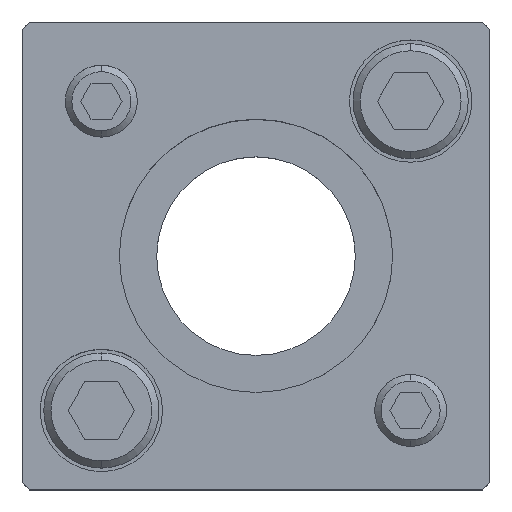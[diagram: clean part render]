
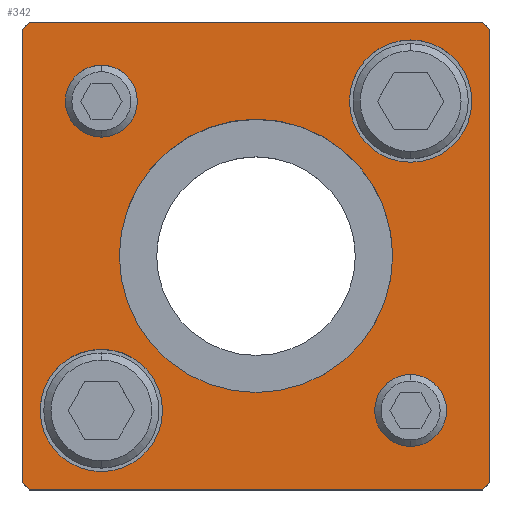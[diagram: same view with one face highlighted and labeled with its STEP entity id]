
A CAD part, top view. The second image highlights one B-rep face of the part: STEP entity #342.
In plain terms, the highlighted planar face has unit normal (0, 0, 1).
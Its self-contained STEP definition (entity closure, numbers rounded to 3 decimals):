
#167=PLANE('',#2889);
#246=FACE_BOUND('',#713,.T.);
#247=FACE_BOUND('',#714,.T.);
#248=FACE_BOUND('',#715,.T.);
#249=FACE_BOUND('',#716,.T.);
#250=FACE_BOUND('',#717,.T.);
#251=FACE_BOUND('',#718,.T.);
#342=ADVANCED_FACE('',(#246,#247,#248,#249,#250,#251),#167,.T.);
#713=EDGE_LOOP('',(#1572,#1573,#1574,#1575,#1576,#1577,#1578,#1579));
#714=EDGE_LOOP('',(#1580,#1581));
#715=EDGE_LOOP('',(#1582,#1583));
#716=EDGE_LOOP('',(#1584,#1585));
#717=EDGE_LOOP('',(#1586,#1587));
#718=EDGE_LOOP('',(#1588,#1589));
#899=LINE('',#4234,#1120);
#900=LINE('',#4237,#1121);
#901=LINE('',#4239,#1122);
#902=LINE('',#4241,#1123);
#903=LINE('',#4243,#1124);
#904=LINE('',#4245,#1125);
#905=LINE('',#4247,#1126);
#906=LINE('',#4249,#1127);
#1120=VECTOR('',#3408,1.);
#1121=VECTOR('',#3409,1.);
#1122=VECTOR('',#3410,1.);
#1123=VECTOR('',#3411,1.);
#1124=VECTOR('',#3412,1.);
#1125=VECTOR('',#3413,1.);
#1126=VECTOR('',#3414,1.);
#1127=VECTOR('',#3415,1.);
#1572=ORIENTED_EDGE('',*,*,#2396,.T.);
#1573=ORIENTED_EDGE('',*,*,#2397,.T.);
#1574=ORIENTED_EDGE('',*,*,#2398,.T.);
#1575=ORIENTED_EDGE('',*,*,#2399,.T.);
#1576=ORIENTED_EDGE('',*,*,#2400,.T.);
#1577=ORIENTED_EDGE('',*,*,#2401,.T.);
#1578=ORIENTED_EDGE('',*,*,#2402,.T.);
#1579=ORIENTED_EDGE('',*,*,#2403,.T.);
#1580=ORIENTED_EDGE('',*,*,#2404,.F.);
#1581=ORIENTED_EDGE('',*,*,#2405,.F.);
#1582=ORIENTED_EDGE('',*,*,#2406,.F.);
#1583=ORIENTED_EDGE('',*,*,#2407,.F.);
#1584=ORIENTED_EDGE('',*,*,#2382,.F.);
#1585=ORIENTED_EDGE('',*,*,#2378,.F.);
#1586=ORIENTED_EDGE('',*,*,#2376,.F.);
#1587=ORIENTED_EDGE('',*,*,#2372,.F.);
#1588=ORIENTED_EDGE('',*,*,#2408,.T.);
#1589=ORIENTED_EDGE('',*,*,#2409,.T.);
#2088=VERTEX_POINT('',#4185);
#2089=VERTEX_POINT('',#4186);
#2092=VERTEX_POINT('',#4198);
#2093=VERTEX_POINT('',#4199);
#2104=VERTEX_POINT('',#4235);
#2105=VERTEX_POINT('',#4236);
#2106=VERTEX_POINT('',#4238);
#2107=VERTEX_POINT('',#4240);
#2108=VERTEX_POINT('',#4242);
#2109=VERTEX_POINT('',#4244);
#2110=VERTEX_POINT('',#4246);
#2111=VERTEX_POINT('',#4248);
#2112=VERTEX_POINT('',#4251);
#2113=VERTEX_POINT('',#4252);
#2114=VERTEX_POINT('',#4255);
#2115=VERTEX_POINT('',#4256);
#2116=VERTEX_POINT('',#4259);
#2117=VERTEX_POINT('',#4260);
#2372=EDGE_CURVE('',#2088,#2089,#2661,.T.);
#2376=EDGE_CURVE('',#2089,#2088,#2663,.T.);
#2378=EDGE_CURVE('',#2092,#2093,#2665,.T.);
#2382=EDGE_CURVE('',#2093,#2092,#2667,.T.);
#2396=EDGE_CURVE('',#2104,#2105,#899,.T.);
#2397=EDGE_CURVE('',#2105,#2106,#900,.T.);
#2398=EDGE_CURVE('',#2106,#2107,#901,.T.);
#2399=EDGE_CURVE('',#2107,#2108,#902,.T.);
#2400=EDGE_CURVE('',#2108,#2109,#903,.T.);
#2401=EDGE_CURVE('',#2109,#2110,#904,.T.);
#2402=EDGE_CURVE('',#2110,#2111,#905,.T.);
#2403=EDGE_CURVE('',#2111,#2104,#906,.T.);
#2404=EDGE_CURVE('',#2112,#2113,#2677,.T.);
#2405=EDGE_CURVE('',#2113,#2112,#2678,.T.);
#2406=EDGE_CURVE('',#2114,#2115,#2679,.T.);
#2407=EDGE_CURVE('',#2115,#2114,#2680,.T.);
#2408=EDGE_CURVE('',#2116,#2117,#2681,.T.);
#2409=EDGE_CURVE('',#2117,#2116,#2682,.T.);
#2661=CIRCLE('',#2857,5.);
#2663=CIRCLE('',#2860,5.);
#2665=CIRCLE('',#2864,5.);
#2667=CIRCLE('',#2867,5.);
#2677=CIRCLE('',#2883,8.5);
#2678=CIRCLE('',#2884,8.5);
#2679=CIRCLE('',#2885,8.5);
#2680=CIRCLE('',#2886,8.5);
#2681=CIRCLE('',#2887,19.);
#2682=CIRCLE('',#2888,19.);
#2857=AXIS2_PLACEMENT_3D('',#4184,#3348,#3349);
#2860=AXIS2_PLACEMENT_3D('',#4193,#3356,#3357);
#2864=AXIS2_PLACEMENT_3D('',#4197,#3364,#3365);
#2867=AXIS2_PLACEMENT_3D('',#4206,#3372,#3373);
#2883=AXIS2_PLACEMENT_3D('',#4250,#3416,#3417);
#2884=AXIS2_PLACEMENT_3D('',#4253,#3418,#3419);
#2885=AXIS2_PLACEMENT_3D('',#4254,#3420,#3421);
#2886=AXIS2_PLACEMENT_3D('',#4257,#3422,#3423);
#2887=AXIS2_PLACEMENT_3D('',#4258,#3424,#3425);
#2888=AXIS2_PLACEMENT_3D('',#4261,#3426,#3427);
#2889=AXIS2_PLACEMENT_3D('',#4262,#3428,#3429);
#3348=DIRECTION('',(0.,0.,1.));
#3349=DIRECTION('',(-1.,0.,0.));
#3356=DIRECTION('',(0.,0.,1.));
#3357=DIRECTION('',(1.,0.,0.));
#3364=DIRECTION('',(0.,0.,1.));
#3365=DIRECTION('',(-1.,0.,0.));
#3372=DIRECTION('',(0.,0.,1.));
#3373=DIRECTION('',(1.,0.,0.));
#3408=DIRECTION('',(0.707,0.707,0.));
#3409=DIRECTION('',(0.,1.,0.));
#3410=DIRECTION('',(-0.707,0.707,0.));
#3411=DIRECTION('',(-1.,0.,0.));
#3412=DIRECTION('',(-0.707,-0.707,0.));
#3413=DIRECTION('',(0.,-1.,0.));
#3414=DIRECTION('',(0.707,-0.707,0.));
#3415=DIRECTION('',(1.,0.,0.));
#3416=DIRECTION('',(0.,0.,1.));
#3417=DIRECTION('',(1.,0.,0.));
#3418=DIRECTION('',(0.,0.,1.));
#3419=DIRECTION('',(-1.,0.,0.));
#3420=DIRECTION('',(0.,0.,1.));
#3421=DIRECTION('',(1.,0.,0.));
#3422=DIRECTION('',(0.,0.,1.));
#3423=DIRECTION('',(-1.,0.,0.));
#3424=DIRECTION('',(0.,0.,-1.));
#3425=DIRECTION('',(-1.,0.,0.));
#3426=DIRECTION('',(0.,0.,-1.));
#3427=DIRECTION('',(1.,0.,0.));
#3428=DIRECTION('',(0.,0.,1.));
#3429=DIRECTION('',(-1.,0.,0.));
#4184=CARTESIAN_POINT('',(21.5,-21.5,35.));
#4185=CARTESIAN_POINT('',(21.5,-26.5,35.));
#4186=CARTESIAN_POINT('',(21.5,-16.5,35.));
#4193=CARTESIAN_POINT('',(21.5,-21.5,35.));
#4197=CARTESIAN_POINT('',(-21.5,21.5,35.));
#4198=CARTESIAN_POINT('',(-21.5,16.5,35.));
#4199=CARTESIAN_POINT('',(-21.5,26.5,35.));
#4206=CARTESIAN_POINT('',(-21.5,21.5,35.));
#4234=CARTESIAN_POINT('',(31.5,-32.5,35.));
#4235=CARTESIAN_POINT('',(31.5,-32.5,35.));
#4236=CARTESIAN_POINT('',(32.5,-31.5,35.));
#4237=CARTESIAN_POINT('',(32.5,31.5,35.));
#4238=CARTESIAN_POINT('',(32.5,31.5,35.));
#4239=CARTESIAN_POINT('',(32.5,31.5,35.));
#4240=CARTESIAN_POINT('',(31.5,32.5,35.));
#4241=CARTESIAN_POINT('',(-31.5,32.5,35.));
#4242=CARTESIAN_POINT('',(-31.5,32.5,35.));
#4243=CARTESIAN_POINT('',(-31.5,32.5,35.));
#4244=CARTESIAN_POINT('',(-32.5,31.5,35.));
#4245=CARTESIAN_POINT('',(-32.5,31.5,35.));
#4246=CARTESIAN_POINT('',(-32.5,-31.5,35.));
#4247=CARTESIAN_POINT('',(-32.5,-31.5,35.));
#4248=CARTESIAN_POINT('',(-31.5,-32.5,35.));
#4249=CARTESIAN_POINT('',(-31.5,-32.5,35.));
#4250=CARTESIAN_POINT('',(21.5,21.5,35.));
#4251=CARTESIAN_POINT('',(21.5,30.,35.));
#4252=CARTESIAN_POINT('',(21.5,13.,35.));
#4253=CARTESIAN_POINT('',(21.5,21.5,35.));
#4254=CARTESIAN_POINT('',(-21.5,-21.5,35.));
#4255=CARTESIAN_POINT('',(-21.5,-13.,35.));
#4256=CARTESIAN_POINT('',(-21.5,-30.,35.));
#4257=CARTESIAN_POINT('',(-21.5,-21.5,35.));
#4258=CARTESIAN_POINT('',(0.,0.,35.));
#4259=CARTESIAN_POINT('',(0.,19.,35.));
#4260=CARTESIAN_POINT('',(0.,-19.,35.));
#4261=CARTESIAN_POINT('',(0.,0.,35.));
#4262=CARTESIAN_POINT('',(31.5,-32.5,35.));
